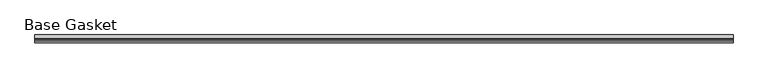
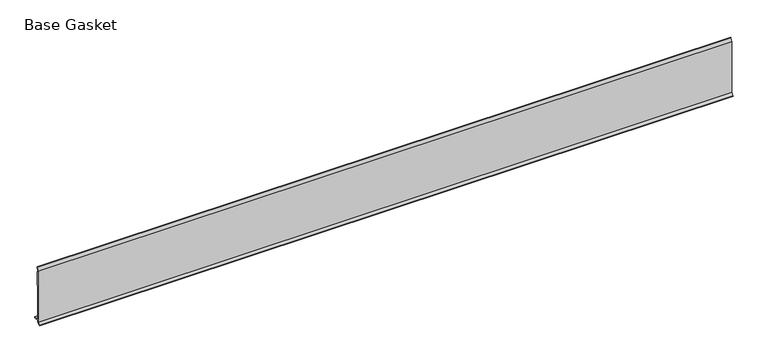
"""IFC4 building model written with IfcOpenShell, lengths in millimetres: furniture geometry, Gasket-Teknion-FHGB-AI_Healthcare-R2021 : Base Gasket."""

import ifcopenshell
import ifcopenshell.guid

model = None  # the IFC model being written
_history = None  # IfcOwnerHistory: only IFC2X3 demands one
_inside = {}  # id of a spatial element -> (the spatial element, [elements in it])
_under = {}  # id of a project, library or spatial element -> (it, [spatial elements below it])
_declared = {}  # id of a project -> (the project, [libraries it declares])
_typed = {}  # id of a type object -> (the type object, [elements of that type])
_made_of = {}  # id of a material, layer set ... -> (it, [elements and type objects made of it])


def new_model(schema):
    """Start an empty IFC model of exactly this schema.

    Asked for "IFC4X3", IfcOpenShell would pick the latest addendum, in which some entities
    have other attributes; the version numbers below select the first issue.
    IFC2X3 requires an IfcOwnerHistory on every rooted entity: one is made here for all.
    """
    global model, _history
    if schema == "IFC4X3":
        model = ifcopenshell.file(schema_version=(4, 3, 0, 0))
    else:
        model = ifcopenshell.file(schema=schema)
    _inside.clear()
    _under.clear()
    _declared.clear()
    _typed.clear()
    _made_of.clear()
    _history = None
    if model.schema == "IFC2X3":
        org = make("IfcOrganization", Name="unknown")
        user = make(
            "IfcPersonAndOrganization",
            ThePerson=make("IfcPerson", FamilyName="unknown"),
            TheOrganization=org,
        )
        app = make(
            "IfcApplication",
            ApplicationDeveloper=org,
            Version="unknown",
            ApplicationFullName="unknown",
            ApplicationIdentifier="unknown",
        )
        _history = make(
            "IfcOwnerHistory",
            OwningUser=user,
            OwningApplication=app,
            ChangeAction="ADDED",
            CreationDate=0,
        )
    return model


def make(cls, **values):
    """One entity of the class cls with the attributes given. An attribute that is None is left unset."""
    return model.create_entity(
        cls, **{name: value for name, value in values.items() if value is not None}
    )


def rooted(cls, **values):
    """An entity with a GlobalId (a new one), such as an element, a storey or a relation."""
    return make(cls, GlobalId=ifcopenshell.guid.new(), OwnerHistory=_history, **values)


def si_unit(unit_type, name, prefix=None):
    """IfcSIUnit, for example si_unit("LENGTHUNIT", "METRE", prefix="MILLI")."""
    return make("IfcSIUnit", UnitType=unit_type, Prefix=prefix, Name=name)


def assignment(units):
    """IfcUnitAssignment: the units of a project."""
    return None if units is None else make("IfcUnitAssignment", Units=units)


def point(xyz):
    """IfcCartesianPoint."""
    return None if xyz is None else make("IfcCartesianPoint", Coordinates=xyz)


def direction(xyz):
    """IfcDirection."""
    return None if xyz is None else make("IfcDirection", DirectionRatios=xyz)


def frame(location, z_axis=None, x_axis=None):
    """IfcAxis2Placement3D, a coordinate frame: its origin and axes. An axis left out is left unset."""
    return make(
        "IfcAxis2Placement3D",
        Location=point(location),
        Axis=direction(z_axis),
        RefDirection=direction(x_axis),
    )


def origin():
    """The frame at (0, 0, 0) with its axes left unset."""
    return frame((0.0, 0.0, 0.0))


def place(relative_to, where):
    """IfcLocalPlacement: puts the frame where relative to a parent placement (None: the world)."""
    return make(
        "IfcLocalPlacement", PlacementRelTo=relative_to, RelativePlacement=where
    )


def context(
    kind, dimensions, precision=None, world=None, true_north=None, identifier=None
):
    """IfcGeometricRepresentationContext, for example the 3D "Model" context."""
    return make(
        "IfcGeometricRepresentationContext",
        ContextIdentifier=identifier,
        ContextType=kind,
        CoordinateSpaceDimension=dimensions,
        Precision=precision,
        WorldCoordinateSystem=world,
        TrueNorth=true_north,
    )


def project(units=None, contexts=None):
    """IfcProject with its units and contexts."""
    return rooted(
        "IfcProject",
        Name="project",
        RepresentationContexts=contexts,
        UnitsInContext=assignment(units),
    )


def spatial(cls, under=None, at=None, **own):
    """A site, building, storey or space (cls), placed at a placement, below another one or the project."""
    s = rooted(cls, ObjectPlacement=at, **own)
    if under is not None:
        _under.setdefault(under.id(), (under, []))[1].append(s)
    return s


def polyline(points):
    """IfcPolyline through the points."""
    return make("IfcPolyline", Points=[point(p) for p in points])


def outline(outer, holes=None, kind="AREA"):
    """IfcArbitraryClosedProfileDef: a profile drawn as a closed curve; with holes, ...WithVoids."""
    if holes is None:
        return make("IfcArbitraryClosedProfileDef", ProfileType=kind, OuterCurve=outer)
    return make(
        "IfcArbitraryProfileDefWithVoids",
        ProfileType=kind,
        OuterCurve=outer,
        InnerCurves=holes,
    )


def extrude(swept, where, along, depth):
    """IfcExtrudedAreaSolid: the profile swept, set in the frame where, extruded along a direction by depth."""
    return make(
        "IfcExtrudedAreaSolid",
        SweptArea=swept,
        Position=where,
        ExtrudedDirection=direction(along),
        Depth=depth,
    )


def shape(context_of_items, identifier, shape_type, items):
    """IfcShapeRepresentation: the items that make up one representation, for example the "Body"."""
    return make(
        "IfcShapeRepresentation",
        ContextOfItems=context_of_items,
        RepresentationIdentifier=identifier,
        RepresentationType=shape_type,
        Items=items,
    )


def source(mapping_origin, context_of_items, identifier, shape_type, items):
    """IfcRepresentationMap: a shape defined once, which mapped items show again and again."""
    return make(
        "IfcRepresentationMap",
        MappingOrigin=mapping_origin,
        MappedRepresentation=shape(context_of_items, identifier, shape_type, items),
    )


def transform(
    local_origin,
    x_axis=None,
    y_axis=None,
    z_axis=None,
    scale=None,
    scale2=None,
    scale3=None,
    uniform=True,
):
    """IfcCartesianTransformationOperator3D, or its non-uniform kind. x_axis, y_axis, z_axis: its Axis1, 2, 3."""
    if uniform:
        return make(
            "IfcCartesianTransformationOperator3D",
            Axis1=direction(x_axis),
            Axis2=direction(y_axis),
            LocalOrigin=point(local_origin),
            Scale=scale,
            Axis3=direction(z_axis),
        )
    return make(
        "IfcCartesianTransformationOperator3DnonUniform",
        Axis1=direction(x_axis),
        Axis2=direction(y_axis),
        LocalOrigin=point(local_origin),
        Scale=scale,
        Axis3=direction(z_axis),
        Scale2=scale2,
        Scale3=scale3,
    )


def mapped(mapping_source, mapping_target):
    """IfcMappedItem: shows the shape of a source again, moved by a transform."""
    return make(
        "IfcMappedItem", MappingSource=mapping_source, MappingTarget=mapping_target
    )


def made_of(thing, what):
    """Note that an element or type object is made of a material, layer set ...; save() writes the relation."""
    if what is not None:
        _made_of.setdefault(what.id(), (what, []))[1].append(thing)
    return thing


def element(
    cls,
    number,
    at=None,
    inside=None,
    cuts=None,
    type_object=None,
    material=None,
    context=None,
    identifier="Body",
    shape_type=None,
    held_by="IfcProductDefinitionShape",
    body=None,
    shapes=None,
    **own,
):
    """One element of the class cls, such as IfcWall. Its Tag is "e" and its number.

    at: its placement. inside: the storey or other place that contains it. cuts: it is an
    opening in that element (IfcRelVoidsElement). A single representation is given by context,
    identifier, shape_type and body (its items); several are given by shapes. held_by: the class
    of the entity that holds the representations. save() writes the other relations.
    """
    e = rooted(cls, Tag="e%d" % number, ObjectPlacement=at, **own)
    if body is not None:
        shapes = [shape(context, identifier, shape_type, body)]
    if shapes is not None:
        e.Representation = make(held_by, Representations=shapes)
    if inside is not None:
        _inside.setdefault(inside.id(), (inside, []))[1].append(e)
    if cuts is not None:
        rooted(
            "IfcRelVoidsElement", RelatingBuildingElement=cuts, RelatedOpeningElement=e
        )
    if type_object is not None:
        _typed.setdefault(type_object.id(), (type_object, []))[1].append(e)
    return made_of(e, material)


def aggregate(whole, parts):
    """IfcRelAggregates: a whole, such as a stair, and the parts it consists of."""
    return rooted("IfcRelAggregates", RelatingObject=whole, RelatedObjects=parts)


def save(model, path):
    """Write the relations noted so far, then the file.

    IfcRelAggregates (storeys below a building ...), IfcRelContainedInSpatialStructure (elements
    in a storey), IfcRelDefinesByType, IfcRelAssociatesMaterial and IfcRelDeclares: one each for
    every whole, place, type object, material and project.
    """
    for whole, parts in _under.values():
        aggregate(whole, parts)
    for where, things in _inside.values():
        rooted(
            "IfcRelContainedInSpatialStructure",
            RelatedElements=things,
            RelatingStructure=where,
        )
    for kind, things in _typed.values():
        rooted("IfcRelDefinesByType", RelatedObjects=things, RelatingType=kind)
    for what, things in _made_of.values():
        rooted("IfcRelAssociatesMaterial", RelatedObjects=things, RelatingMaterial=what)
    for by, libraries in _declared.values():
        rooted("IfcRelDeclares", RelatingContext=by, RelatedDefinitions=libraries)
    model.write(path)


def base_gasket_01c8d273(model_context):
    return source(origin(), model_context, "Body", "SweptSolid", [
        extrude(outline(polyline([(-3.7283812, 98.4568417), (-1.1891543, 104.587663), (-0.6755308, 105.2002997), (-0.6755308, 104.4162708), (-2.2043812, 98.4568417), (-2.2043812, 96.8693477), (-1.4106313, 96.8693477), (-1.4106313, 71.4693447), (-2.2043812, 71.4693447), (-2.2043812, 7.9398773), (6.2405171, 7.9398773), (6.2405171, 6.3818476), (-2.1334222, 6.3818476), (-2.2043812, 4.3498477), (-6.8281054, 0.3520979), (-7.8482342, 0.0), (-7.4222115, 0.6560174), (-3.7283812, 4.3498477), (-3.7283812, 98.4568417)])), frame((-1527.8982117, 0.0, 0.0), z_axis=(1.0, 0.0, 0.0), x_axis=(0.0, 1.0, 0.0)), (0.0, 0.0, 1.0), 1219.2),
    ])


if __name__ == "__main__":
    model = new_model("IFC4")
    model_context = context("Model", 3, world=origin())
    ifc_project = project(units=[si_unit("LENGTHUNIT", "METRE", prefix="MILLI")], contexts=[model_context])
    site = spatial("IfcSite", under=ifc_project)
    building = spatial("IfcBuilding", under=site)
    placement = place(None, origin())
    base_gasket_shape = base_gasket_01c8d273(model_context)
    element("IfcFurniture", 1, ObjectType="Gasket-Teknion-FHGB-AI_Healthcare-R2021 : Base Gasket", at=placement, inside=building, context=model_context, shape_type="MappedRepresentation", body=[
        mapped(base_gasket_shape, transform((0.0, 0.0, 0.0), x_axis=(1.0, 0.0, 0.0), y_axis=(0.0, 1.0, 0.0), z_axis=(0.0, 0.0, 1.0))),
    ])
    save(model, "model.ifc")
